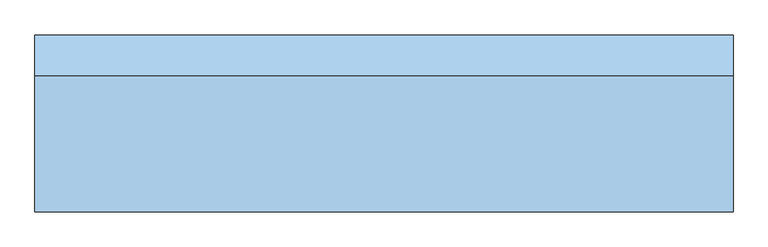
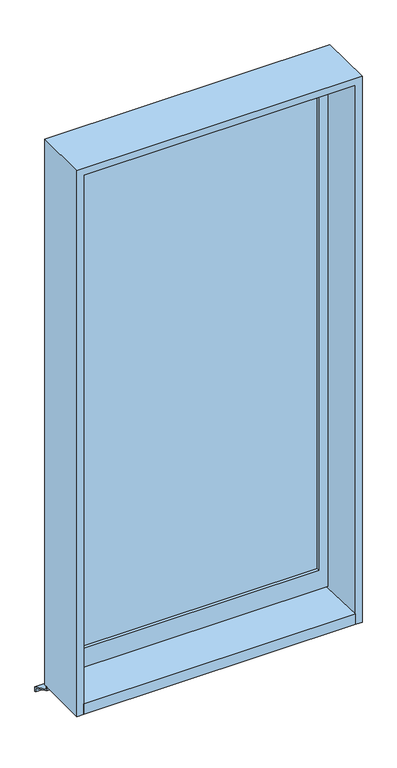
"""IFC4 building model written with IfcOpenShell, lengths in millimetres: window geometry, 380_片開窓_01 : AW5-H2470W1200."""

from ifc_helpers import new_model, si_unit, frame, origin, place, context, project, spatial, polyline, outline, extrude, source, transform, mapped, element, save


def window_02fdaeb4(model_context):
    return source(origin(), model_context, "Body", "SweptSolid", [
        extrude(outline(polyline([(2.5, 835.0), (87.5, 795.0), (87.5, 775.0), (82.5014518, 775.0), (82.5014518, 791.8262891), (-2.5, 831.8269723), (-2.5, 850.0), (2.5, 850.0), (2.5, 835.0)])), frame((-630.0, 0.0, 0.0), z_axis=(1.0, 0.0, 0.0), x_axis=(0.0, 1.0, 0.0)), (0.0, 0.0, 1.0), 1260.0),
        extrude(outline(polyline([(560.0, -10.0), (-560.0, -10.0), (-560.0, -5.0), (560.0, -5.0), (560.0, -10.0)])), frame((0.0, 0.0, 990.0), z_axis=(0.0, 0.0, 1.0), x_axis=(1.0, 0.0, 0.0)), (0.0, 0.0, 1.0), 2340.0),
        extrude(outline(polyline([(3370.0, 600.0), (3370.0, -600.0), (900.0, -600.0), (900.0, 600.0), (3370.0, 600.0)]), holes=[polyline([(3330.0, 560.0), (990.0, 560.0), (990.0, -560.0), (3330.0, -560.0), (3330.0, 560.0)])]), frame((0.0, -22.5, 0.0), z_axis=(0.0, 1.0, 0.0), x_axis=(0.0, 0.0, 1.0)), (0.0, 0.0, 1.0), 30.0),
        extrude(outline(polyline([(-232.5, 850.0), (-232.5, 900.0), (12.5, 890.6666667), (12.5, 850.0), (-232.5, 850.0)])), frame((-600.0, 0.0, 0.0), z_axis=(1.0, 0.0, 0.0), x_axis=(0.0, 1.0, 0.0)), (0.0, 0.0, 1.0), 1200.0),
        extrude(outline(polyline([(850.0, -630.0), (850.0, -600.0), (3370.0, -600.0), (3370.0, 600.0), (850.0, 600.0), (850.0, 630.0), (3400.0, 630.0), (3400.0, -630.0), (850.0, -630.0)])), frame((0.0, -232.5, 0.0), z_axis=(0.0, 1.0, 0.0), x_axis=(0.0, 0.0, 1.0)), (0.0, 0.0, 1.0), 245.0),
    ])


if __name__ == "__main__":
    model = new_model("IFC4")
    model_context = context("Model", 3, world=origin())
    ifc_project = project(units=[si_unit("LENGTHUNIT", "METRE", prefix="MILLI")], contexts=[model_context])
    site = spatial("IfcSite", under=ifc_project)
    building = spatial("IfcBuilding", under=site)
    placement = place(None, origin())
    window_shape = window_02fdaeb4(model_context)
    element("IfcWindow", 1, ObjectType="380_片開窓_01 : AW5-H2470W1200", at=placement, inside=building, context=model_context, shape_type="MappedRepresentation", body=[
        mapped(window_shape, transform((0.0, 0.0, 0.0), x_axis=(1.0, 0.0, 0.0), y_axis=(0.0, 1.0, 0.0), z_axis=(0.0, 0.0, 1.0))),
    ])
    save(model, "model.ifc")
